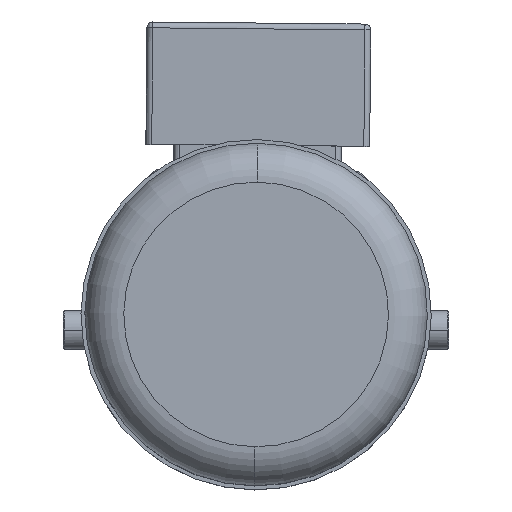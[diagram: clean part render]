
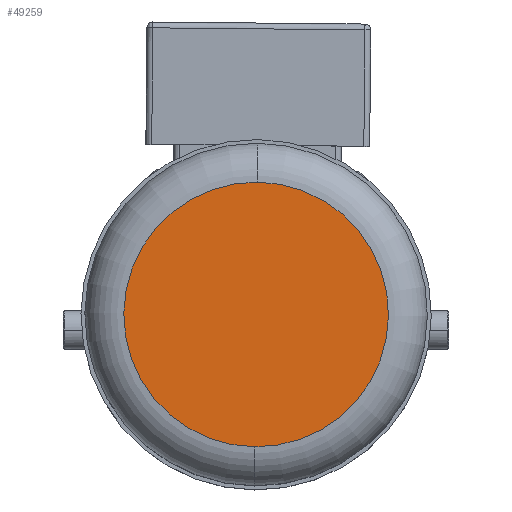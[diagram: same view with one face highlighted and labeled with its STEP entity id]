
A CAD part, top view. The second image highlights one B-rep face of the part: STEP entity #49259.
In plain terms, the highlighted planar face has unit normal (0, 0, 1) as drawn and (0, 0, -1) by its records, which use the part's own axes.
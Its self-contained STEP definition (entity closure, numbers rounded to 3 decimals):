
#5124 = CARTESIAN_POINT ( 'NONE',  ( 0., 68., -330. ) ) ;
#6745 = EDGE_CURVE ( 'NONE', #22633, #50939, #85229, .T. ) ;
#18434 = CARTESIAN_POINT ( 'NONE',  ( 0., 0., -330. ) ) ;
#21187 = CARTESIAN_POINT ( 'NONE',  ( 0., 0., -330. ) ) ;
#22633 = VERTEX_POINT ( 'NONE', #35214 ) ;
#26644 = DIRECTION ( 'NONE',  ( 0., 1., 0. ) ) ;
#28795 = AXIS2_PLACEMENT_3D ( 'NONE', #21187, #78115, #29407 ) ;
#29407 = DIRECTION ( 'NONE',  ( 0., 1., 0. ) ) ;
#33617 = DIRECTION ( 'NONE',  ( 0., 0., -1. ) ) ;
#35214 = CARTESIAN_POINT ( 'NONE',  ( 0., -68., -330. ) ) ;
#44395 = AXIS2_PLACEMENT_3D ( 'NONE', #18434, #75368, #26644 ) ;
#46861 = ORIENTED_EDGE ( 'NONE', *, *, #65100, .T. ) ;
#49259 = ADVANCED_FACE ( 'NONE', ( #70892 ), #49600, .T. ) ;
#49600 = PLANE ( 'NONE',  #81963 ) ;
#50939 = VERTEX_POINT ( 'NONE', #5124 ) ;
#63394 = ORIENTED_EDGE ( 'NONE', *, *, #6745, .T. ) ;
#65100 = EDGE_CURVE ( 'NONE', #50939, #22633, #74091, .T. ) ;
#70530 = EDGE_LOOP ( 'NONE', ( #46861, #63394 ) ) ;
#70892 = FACE_OUTER_BOUND ( 'NONE', #70530, .T. ) ;
#74091 = CIRCLE ( 'NONE', #28795, 68. ) ;
#75368 = DIRECTION ( 'NONE',  ( 0., 0., -1. ) ) ;
#78115 = DIRECTION ( 'NONE',  ( 0., 0., -1. ) ) ;
#81963 = AXIS2_PLACEMENT_3D ( 'NONE', #82280, #33617, #90518 ) ;
#82280 = CARTESIAN_POINT ( 'NONE',  ( 0., 0., -330. ) ) ;
#85229 = CIRCLE ( 'NONE', #44395, 68. ) ;
#90518 = DIRECTION ( 'NONE',  ( 0., 1., 0. ) ) ;
